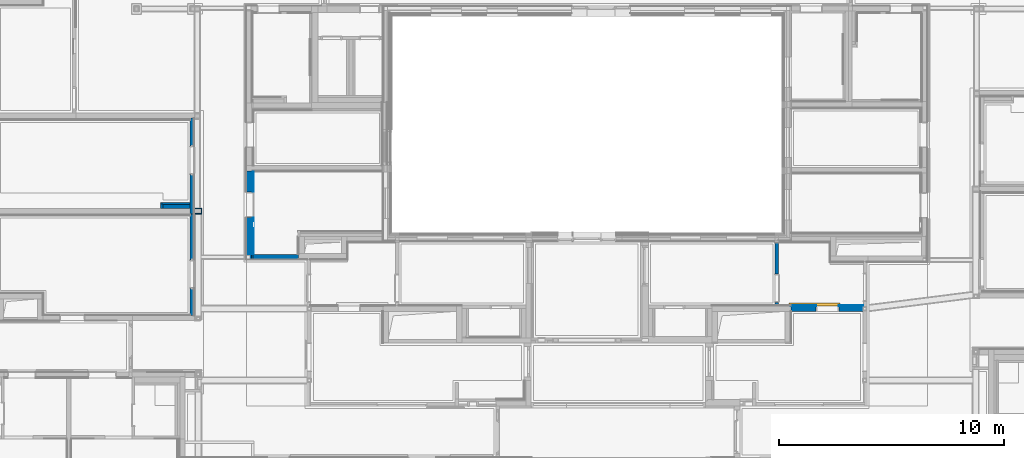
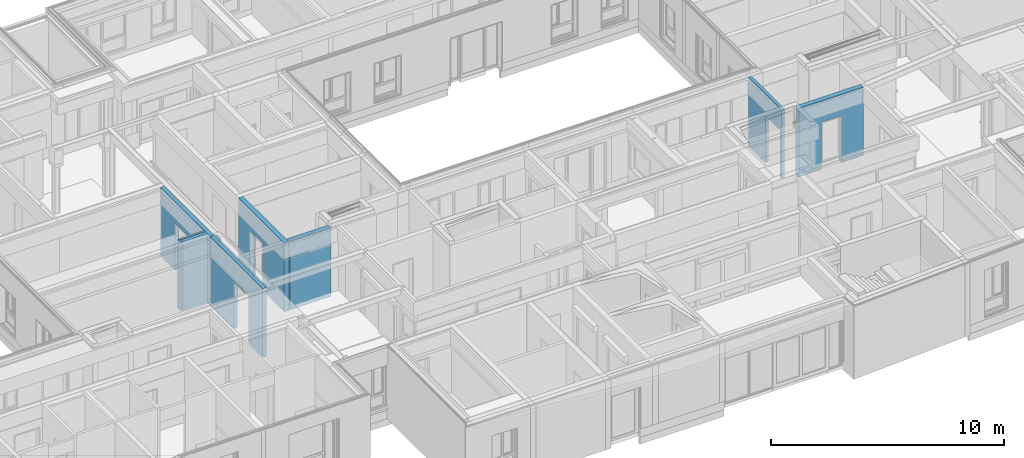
# One storey, part 28 of 207: 15 walls, 1 door, 8 openings.
"""IFC4 building model written with IfcOpenShell, lengths in metres."""

from ifc_helpers import new_model, entity, si_unit, converted_unit, derived_unit, frame, frame_2d, origin, origin_with_axes, place, context, subcontext, project, spatial, polyline, rectangle, outline, extrude, clip, bounded_halfspace, faceted_brep, source, transform, mapped, material, type_object, element, fill, save


model = new_model("IFC4")

# Units and contexts
model_context = context("Model", 3, precision=1e-05, world=origin())
body_context = subcontext(model_context, "Body", "Model", "MODEL_VIEW")
ifc_project = project(units=[si_unit("LENGTHUNIT", "METRE"), si_unit("AREAUNIT", "SQUARE_METRE"), si_unit("VOLUMEUNIT", "CUBIC_METRE"), si_unit("MASSUNIT", "GRAM", prefix="KILO"), converted_unit("PLANEANGLEUNIT", "DEGREE", entity("IfcPlaneAngleMeasure", 0.0174532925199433), si_unit("PLANEANGLEUNIT", "RADIAN"), dimensions=[0, 0, 0, 0, 0, 0, 0]), derived_unit("THERMALTRANSMITTANCEUNIT", [(si_unit("POWERUNIT", "WATT"), 1), (si_unit("THERMODYNAMICTEMPERATUREUNIT", "KELVIN"), -1), (si_unit("LENGTHUNIT", "METRE"), -2)]), derived_unit("VOLUMETRICFLOWRATEUNIT", [(si_unit("LENGTHUNIT", "METRE"), 3), (converted_unit("TIMEUNIT", "hour", entity("IfcTimeMeasure", 3600.0), si_unit("TIMEUNIT", "SECOND"), dimensions=[0, 0, 1, 0, 0, 0, 0]), -1), (si_unit("LENGTHUNIT", "METRE"), -1)])], contexts=[model_context])

# Site, building, storey
site_placement = place(None, origin())
site = spatial("IfcSite", under=ifc_project, at=site_placement, Name="Psychiatrie Neubau Wunstorf", CompositionType="ELEMENT")
building_placement = place(site_placement, origin())
building = spatial("IfcBuilding", under=site, at=building_placement, Name="Neubau H2 Stationsgebäude", CompositionType="ELEMENT")
storey_placement = place(building_placement, frame((0.0, 0.0, -0.2)))
storey = spatial("IfcBuildingStorey", under=building, at=storey_placement, Name="H2 Ebene 0", CompositionType="ELEMENT", Elevation=-0.2)

# Wall
ifc_material_1 = material(Name="WI-HW 60")
wall_1_placement = place(storey_placement, frame((40.199951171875, 9.55599624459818, 0.0), z_axis=(0.0, 0.0, 1.0), x_axis=(-1.0, 0.0, 0.0)))
element("IfcWall", 1, at=wall_1_placement, inside=storey, material=ifc_material_1, context=body_context, shape_type="SweptSolid", body=[
    extrude(rectangle(XDim=2.085451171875, YDim=0.232, at=frame_2d((1.0427255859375, 0.116), x_axis=(1.0, 0.0))), origin_with_axes(), (0.0, 0.0, 1.0), 3.6),
])

# Wall, opening
ifc_material_2 = material(Name="WI-LB")
wall_2_placement = place(storey_placement, frame((61.35, 10.1139996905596, 0.0), z_axis=(0.0, 0.0, 1.0), x_axis=(0.0, -1.0, 0.0)))
wall_2 = element("IfcWall", 2, at=wall_2_placement, inside=storey, material=ifc_material_2, context=body_context, shape_type="SweptSolid", body=[
    extrude(rectangle(XDim=2.81900000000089, YDim=0.15, at=frame_2d((1.40950000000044, 0.075), x_axis=(1.0, 0.0))), origin_with_axes(), (0.0, 0.0, 1.0), 3.6),
])
opening_1_placement = place(wall_2_placement, frame((2.68900000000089, 0.15, 0.0), z_axis=(0.0, -1.0, 0.0), x_axis=(0.0, 0.0, 1.0)))
element("IfcOpeningElement", 3, at=opening_1_placement, cuts=wall_2, Name="Türöffnung", ObjectType="Opening", context=body_context, shape_type="SweptSolid", body=[
    extrude(outline(polyline([(2.46, 1.26), (2.46, 0.0), (0.0, 0.0), (0.0, 1.26), (2.46, 1.26)])), origin_with_axes(), (0.0, 0.0, 1.0), 0.15),
])

ifc_material_3 = material(Name="WI-IW")
wall_3_placement = place(storey_placement, frame((65.2749963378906, 7.29499969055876, 0.0), z_axis=(0.0, 0.0, 1.0), x_axis=(-1.0, 0.0, 0.0)))
wall_3 = element("IfcWall", 4, at=wall_3_placement, inside=storey, material=ifc_material_3, context=body_context, shape_type="SweptSolid", body=[
    extrude(rectangle(XDim=3.22499633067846, YDim=0.04, at=frame_2d((1.61249816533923, 0.02), x_axis=(1.0, 0.0))), origin_with_axes(), (0.0, 0.0, 1.0), 2.9),
])
opening_2_placement = place(wall_3_placement, frame((1.08999633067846, 0.0, 0.0), z_axis=(0.0, 1.0, 0.0), x_axis=(0.0, 0.0, 1.0)))
element("IfcOpeningElement", 5, at=opening_2_placement, cuts=wall_3, Name="Türöffnung", ObjectType="Opening", context=body_context, shape_type="SweptSolid", body=[
    extrude(outline(polyline([(2.46, 1.01), (2.46, 0.0), (0.0, 0.0), (0.0, 1.01), (2.46, 1.01)])), origin_with_axes(), (0.0, 0.0, 1.0), 0.04),
])

# Wall, opening, door
ifc_material_4 = material(Name="WI-HW 60")
wall_4_placement = place(storey_placement, frame((65.2749963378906, 7.25499969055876, 0.0), z_axis=(0.0, 0.0, 1.0), x_axis=(-1.0, 0.0, 0.0)))
wall_4 = element("IfcWall", 6, at=wall_4_placement, inside=storey, material=ifc_material_4, context=body_context, shape_type="SweptSolid", body=[
    extrude(outline(polyline([(-3.22499633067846, -0.232), (0.0, -0.232), (0.0, 0.0), (-3.19999633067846, 0.0), (-3.19999633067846, -0.0334999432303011), (-3.19499633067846, -0.0334999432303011), (-3.19499633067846, -0.213499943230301), (-3.22499633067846, -0.213499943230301), (-3.22499633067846, -0.232)])), frame((3.22499633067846, 0.232, 0.0), z_axis=(0.0, 0.0, 1.0), x_axis=(1.0, 0.0, 0.0)), (0.0, 0.0, 1.0), 3.6),
])
opening_3_placement = place(wall_4_placement, frame((1.08999633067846, 0.0, 0.0), z_axis=(0.0, 1.0, 0.0), x_axis=(0.0, 0.0, 1.0)))
opening_3 = element("IfcOpeningElement", 7, at=opening_3_placement, cuts=wall_4, Name="Türöffnung", ObjectType="Opening", context=body_context, shape_type="SweptSolid", body=[
    extrude(outline(polyline([(2.46, 1.01), (2.46, 0.0), (0.0, 0.0), (0.0, 1.01), (2.46, 1.01)])), origin_with_axes(), (0.0, 0.0, 1.0), 0.232),
])
door_type = type_object("IfcDoorType", Name="SMT", OperationType="NOTDEFINED", ParameterTakesPrecedence=False, PredefinedType="DOOR")
shared_shape = source(origin_with_axes(), body_context, "Body", "Brep", [
    faceted_brep([(0.0, 0.15, 0.0), (0.0, 0.0, 0.0), (2.27, 0.0, 0.0), (2.27, 0.15, 0.0), (0.0, 0.0, 0.25), (0.0, 0.15, 0.25), (2.27, 0.15, 0.25), (2.27, 0.0, 0.25)], [[[0, 1, 2, 3]], [[4, 5, 6, 7]], [[1, 0, 5, 4]], [[2, 1, 4, 7]], [[3, 2, 7, 6]], [[0, 3, 6, 5]]], orient=[[False], [False], [False], [False], [False], [False]]),
])
door_placement = place(opening_3_placement, frame((2.46, -0.05, 0.0), z_axis=(1.0, 0.0, 0.0), x_axis=(0.0, 1.0, -2.44929359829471e-16)))
door = element("IfcDoor", 8, at=door_placement, inside=storey, type_object=door_type, Name="SMT", OverallHeight=2.46, OverallWidth=1.01, context=body_context, shape_type="MappedRepresentation", body=[
    mapped(shared_shape, transform((0.0, 0.0, 0.0), x_axis=(1.0, 0.0, 0.0), y_axis=(0.0, -1.0, 0.0), z_axis=(0.0, 0.0, 1.0), scale=1.0)),
])
fill(opening_3, door)

# Walls
ifc_material_5 = material(Name="WI-IW")
wall_5_placement = place(storey_placement, frame((35.38, 11.8645575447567, 0.0), z_axis=(0.0, 0.0, 1.0), x_axis=(-1.0, 0.0, 0.0)))
element("IfcWall", 9, at=wall_5_placement, inside=storey, material=ifc_material_5, context=body_context, shape_type="SweptSolid", body=[
    extrude(outline(polyline([(-1.31, -0.1), (0.0, -0.1), (0.0, -0.025), (-0.1, -0.025), (-0.1, 0.0), (-1.31, 0.0), (-1.31, -0.1)])), frame((1.31, 0.1, 0.0), z_axis=(0.0, 0.0, 1.0), x_axis=(1.0, 0.0, 0.0)), (0.0, 0.0, 1.0), 3.6),
])
ifc_material_6 = material(Name="Installationsraum")
wall_6_placement = place(storey_placement, frame((35.38, 11.7645575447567, 0.0), z_axis=(0.0, 0.0, 1.0), x_axis=(-1.0, 0.0, 0.0)))
element("IfcWall", 10, at=wall_6_placement, inside=storey, material=ifc_material_6, context=body_context, shape_type="SweptSolid", body=[
    extrude(rectangle(XDim=1.21, YDim=0.175, at=frame_2d((0.605, 0.0875), x_axis=(1.0, 0.0))), origin_with_axes(), (0.0, 0.0, 1.0), 3.6),
])
ifc_material_7 = material(Name="WI-IW")
wall_7_placement = place(storey_placement, frame((34.07, 11.7895575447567, 0.0), z_axis=(0.0, 0.0, 1.0), x_axis=(0.0, -1.0, 0.0)))
element("IfcWall", 11, at=wall_7_placement, inside=storey, material=ifc_material_7, context=body_context, shape_type="SweptSolid", body=[
    extrude(rectangle(XDim=0.2, YDim=0.1, at=frame_2d((0.1, 0.05), x_axis=(1.0, 0.0))), origin_with_axes(), (0.0, 0.0, 1.0), 3.6),
])

# Wall, opening
ifc_material_8 = material(Name="WI-LB")
wall_8_placement = place(storey_placement, frame((35.57, 6.844, 0.0), z_axis=(0.0, 0.0, 1.0), x_axis=(0.0, 1.0, 0.0)))
wall_8 = element("IfcWall", 12, at=wall_8_placement, inside=storey, material=ifc_material_8, context=body_context, shape_type="SweptSolid", body=[
    extrude(rectangle(XDim=4.51355754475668, YDim=0.19, at=frame_2d((2.25677877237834, 0.095), x_axis=(1.0, 0.0))), origin_with_axes(), (0.0, 0.0, 1.0), 3.6),
])
opening_4_placement = place(wall_8_placement, frame((2.4660041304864, 0.19, 0.0), z_axis=(0.0, -1.0, 0.0), x_axis=(0.0, 0.0, 1.0)))
element("IfcOpeningElement", 13, at=opening_4_placement, cuts=wall_8, Name="Türöffnung", ObjectType="Opening", context=body_context, shape_type="SweptSolid", body=[
    extrude(outline(polyline([(2.46, 1.26), (2.46, 0.0), (0.0, 0.0), (0.0, 1.26), (2.46, 1.26)])), origin_with_axes(), (0.0, 0.0, 1.0), 0.19),
])

ifc_material_9 = material(Name="WI-LB")
wall_9_placement = place(storey_placement, frame((35.57, 11.3575575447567, 0.0), z_axis=(0.0, 0.0, 1.0), x_axis=(0.0, 1.0, 0.0)))
wall_9 = element("IfcWall", 14, at=wall_9_placement, inside=storey, material=ifc_material_9, context=body_context, shape_type="SweptSolid", body=[
    extrude(rectangle(XDim=4.24294154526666, YDim=0.19, at=frame_2d((2.12147077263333, 0.095), x_axis=(1.0, 0.0))), origin_with_axes(), (0.0, 0.0, 1.0), 3.6),
])
opening_5_placement = place(wall_9_placement, frame((3.00244245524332, 0.19, 0.0), z_axis=(0.0, -1.0, 0.0), x_axis=(0.0, 0.0, 1.0)))
element("IfcOpeningElement", 15, at=opening_5_placement, cuts=wall_9, Name="Türöffnung", ObjectType="Opening", context=body_context, shape_type="SweptSolid", body=[
    extrude(outline(polyline([(2.46, 1.26), (2.46, 0.0), (0.0, 0.0), (0.0, 1.26), (2.46, 1.26)])), origin_with_axes(), (0.0, 0.0, 1.0), 0.19),
])

ifc_material_10 = material(Name="WI-LB")
wall_10_placement = place(storey_placement, frame((38.204, 9.55599624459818, 0.0), z_axis=(0.0, 0.0, 1.0), x_axis=(0.0, 1.0, 0.0)))
wall_10 = element("IfcWall", 16, at=wall_10_placement, inside=storey, material=ifc_material_10, context=body_context, shape_type="SweptSolid", body=[
    extrude(rectangle(XDim=3.66200038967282, YDim=0.0395, at=frame_2d((1.83100019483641, 0.01975), x_axis=(1.0, 0.0))), origin_with_axes(), (0.0, 0.0, 1.0), 2.9),
])
opening_6_placement = place(wall_10_placement, frame((2.76900344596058, 0.0395, 0.0), z_axis=(0.0, -1.0, 0.0), x_axis=(0.0, 0.0, 1.0)))
element("IfcOpeningElement", 17, at=opening_6_placement, cuts=wall_10, Name="Türöffnung", ObjectType="Opening", context=body_context, shape_type="SweptSolid", body=[
    extrude(outline(polyline([(2.46, 1.135), (2.46, 0.0), (0.0, 0.0), (0.0, 1.135), (2.46, 1.135)])), origin_with_axes(), (0.0, 0.0, 1.0), 0.0395),
])

ifc_material_11 = material(Name="Installationsraum")
wall_11_placement = place(storey_placement, frame((38.1645, 9.32399624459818, 0.0), z_axis=(0.0, 0.0, 1.0), x_axis=(0.0, 1.0, 0.0)))
wall_11 = element("IfcWall", 18, at=wall_11_placement, inside=storey, material=ifc_material_11, context=body_context, shape_type="SweptSolid", body=[
    extrude(rectangle(XDim=3.93350038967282, YDim=0.05, at=frame_2d((1.96675019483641, 0.025), x_axis=(1.0, 0.0))), origin_with_axes(), (0.0, 0.0, 1.0), 2.9),
])
opening_7_placement = place(wall_11_placement, frame((3.00100344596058, 0.05, 0.0), z_axis=(0.0, -1.0, 0.0), x_axis=(0.0, 0.0, 1.0)))
element("IfcOpeningElement", 19, at=opening_7_placement, cuts=wall_11, Name="Türöffnung", ObjectType="Opening", context=body_context, shape_type="SweptSolid", body=[
    extrude(outline(polyline([(2.46, 1.135), (2.46, 0.0), (0.0, 0.0), (0.0, 1.135), (2.46, 1.135)])), origin_with_axes(), (0.0, 0.0, 1.0), 0.05),
])

ifc_material_12 = material(Name="WI-HW 60")
wall_12_placement = place(storey_placement, frame((38.1145, 9.32399624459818, 0.0), z_axis=(0.0, 0.0, 1.0), x_axis=(0.0, 1.0, 0.0)))
wall_12 = element("IfcWall", 20, at=wall_12_placement, inside=storey, material=ifc_material_12, context=body_context, shape_type="SweptSolid", body=[
    extrude(rectangle(XDim=3.93350038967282, YDim=0.232, at=frame_2d((1.96675019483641, 0.116), x_axis=(1.0, 0.0))), origin_with_axes(), (0.0, 0.0, 1.0), 3.6),
])
opening_8_placement = place(wall_12_placement, frame((3.00100344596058, 0.232, 0.0), z_axis=(0.0, -1.0, 0.0), x_axis=(0.0, 0.0, 1.0)))
element("IfcOpeningElement", 21, at=opening_8_placement, cuts=wall_12, Name="Türöffnung", ObjectType="Opening", context=body_context, shape_type="SweptSolid", body=[
    extrude(outline(polyline([(2.46, 1.135), (2.46, 0.0), (0.0, 0.0), (0.0, 1.135), (2.46, 1.135)])), origin_with_axes(), (0.0, 0.0, 1.0), 0.232),
])

# Walls
ifc_material_13 = material(Name="BS Beplankung")
wall_13_placement = place(storey_placement, frame((35.6, 11.3375575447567, 0.0)))
element("IfcWall", 22, at=wall_13_placement, inside=storey, material=ifc_material_13, context=body_context, shape_type="SweptSolid", body=[
    extrude(rectangle(XDim=0.264999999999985, YDim=0.036, at=frame_2d((0.132499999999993, 0.018), x_axis=(1.0, 0.0))), origin_with_axes(), (0.0, 0.0, 1.0), 3.37),
])
ifc_material_14 = material(Name="BS Beplankung")
wall_14_placement = place(storey_placement, frame((35.901, 11.3375575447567, 0.0), z_axis=(0.0, 0.0, 1.0), x_axis=(0.0, 1.0, 0.0)))
element("IfcWall", 23, at=wall_14_placement, inside=storey, material=ifc_material_14, context=body_context, shape_type="SweptSolid", body=[
    extrude(rectangle(XDim=0.272, YDim=0.036, at=frame_2d((0.136, 0.018), x_axis=(1.0, 0.0))), origin_with_axes(), (0.0, 0.0, 1.0), 3.37),
])
ifc_material_15 = material(Name="BS Beplankung")
wall_15_placement = place(storey_placement, frame((35.865, 11.6095575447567, 0.0), z_axis=(0.0, 0.0, 1.0), x_axis=(-1.0, 0.0, 0.0)))
element("IfcWall", 24, at=wall_15_placement, inside=storey, material=ifc_material_15, context=body_context, shape_type="Clipping", body=[
    clip(extrude(rectangle(XDim=0.264999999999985, YDim=0.036, at=frame_2d((0.132499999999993, 0.018), x_axis=(1.0, 0.0))), origin_with_axes(), (0.0, 0.0, 1.0), 3.37), bounded_halfspace(frame((0.164999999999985, 0.018, 3.2), z_axis=(0.0, 0.0, -1.0), x_axis=(0.0, -1.0, 0.0)), True, origin_with_axes(), polyline([(0.0649999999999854, 0.036), (0.0649999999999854, 0.0), (0.264999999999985, 0.0), (0.264999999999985, 0.036), (0.0649999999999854, 0.036)]))),
])

save(model, "model.ifc")
